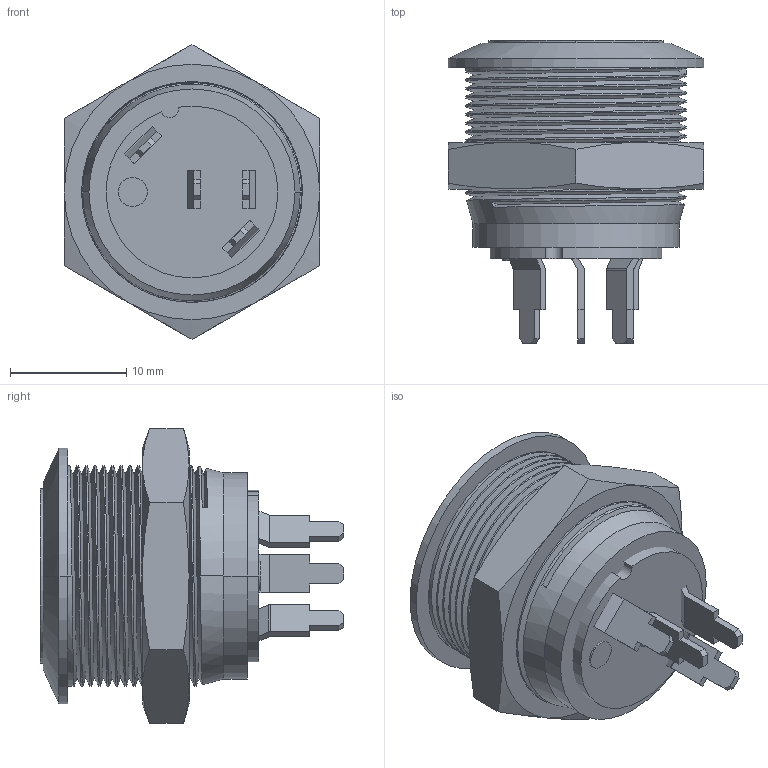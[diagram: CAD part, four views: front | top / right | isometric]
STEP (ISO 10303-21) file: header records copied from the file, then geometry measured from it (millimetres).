
FILE_DESCRIPTION((''),'2;1');
FILE_NAME('AV09C7L3D2006_SW0001','2019-12-09T',('vdelort'),(''),'CREO PARAMETRIC BY PTC INC, 2015380','CREO PARAMETRIC BY PTC INC, 2015380','');
FILE_SCHEMA(('CONFIG_CONTROL_DESIGN'));
Length unit declared in the file: millimetre
Products named in the file (1): AV09C7L3D2006_SW0001
Bounding box: 22 x 26.1 x 25.4 mm (x, y, z)
Surface area: 4910.3 mm2 (no closed solid volume)
Topology: 0 solids, 10 shells, 127 faces, 387 edges, 270 vertices
Faces by surface type: plane 68, cylinder 35, cone 14, bspline 10
Entity records: 10181 total; most frequent: CARTESIAN_POINT 6890, ORIENTED_EDGE 698, DIRECTION 586, EDGE_CURVE 387, VERTEX_POINT 270, VECTOR 222, LINE 222, AXIS2_PLACEMENT_3D 182
